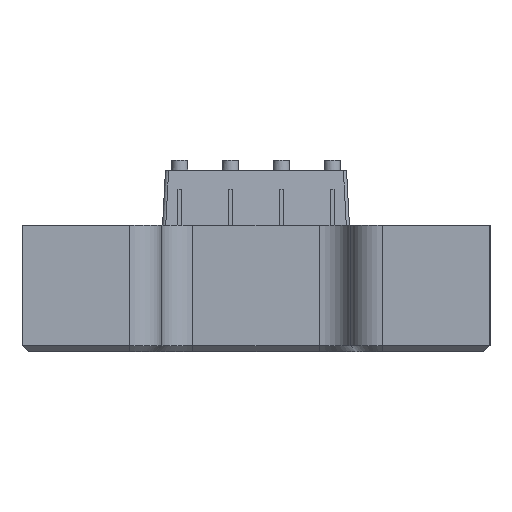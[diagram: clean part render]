
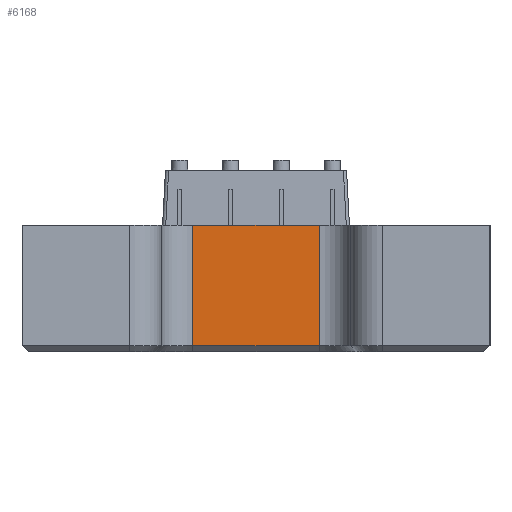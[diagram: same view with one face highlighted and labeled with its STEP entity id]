
A CAD part, left-side view. The second image highlights one B-rep face of the part: STEP entity #6168.
In plain terms, the highlighted planar face has unit normal (-1, 0, 0).
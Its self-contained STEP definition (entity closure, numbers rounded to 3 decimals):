
#6116=CARTESIAN_POINT('Vertex',(-42.,-10.,-19.)) ;
#6123=CARTESIAN_POINT('Vertex',(-42.,-10.,0.)) ;
#6126=CARTESIAN_POINT('Line Origine',(-42.,-10.,-10.)) ;
#6138=CARTESIAN_POINT('Axis2P3D Location',(-42.,15.,0.)) ;
#6143=CARTESIAN_POINT('Line Origine',(-42.,0.,-19.)) ;
#6147=CARTESIAN_POINT('Vertex',(-42.,10.,-19.)) ;
#6150=CARTESIAN_POINT('Line Origine',(-42.,0.,0.)) ;
#6154=CARTESIAN_POINT('Vertex',(-42.,10.,0.)) ;
#6157=CARTESIAN_POINT('Line Origine',(-42.,10.,-9.5)) ;
#6127=DIRECTION('Vector Direction',(0.,0.,-1.)) ;
#6139=DIRECTION('Axis2P3D Direction',(1.,0.,0.)) ;
#6140=DIRECTION('Axis2P3D XDirection',(0.,-1.,0.)) ;
#6144=DIRECTION('Vector Direction',(0.,-1.,0.)) ;
#6151=DIRECTION('Vector Direction',(0.,-1.,0.)) ;
#6158=DIRECTION('Vector Direction',(0.,0.,-1.)) ;
#6141=AXIS2_PLACEMENT_3D('Plane Axis2P3D',#6138,#6139,#6140) ;
#6163=ORIENTED_EDGE('',*,*,#6149,.F.) ;
#6164=ORIENTED_EDGE('',*,*,#6130,.T.) ;
#6165=ORIENTED_EDGE('',*,*,#6156,.T.) ;
#6166=ORIENTED_EDGE('',*,*,#6161,.F.) ;
#6128=VECTOR('Line Direction',#6127,1.) ;
#6145=VECTOR('Line Direction',#6144,1.) ;
#6152=VECTOR('Line Direction',#6151,1.) ;
#6159=VECTOR('Line Direction',#6158,1.) ;
#6168=ADVANCED_FACE('PartBody',(#6167),#6142,.F.) ;
#6130=EDGE_CURVE('',#6117,#6124,#6129,.F.) ;
#6149=EDGE_CURVE('',#6117,#6148,#6146,.F.) ;
#6156=EDGE_CURVE('',#6124,#6155,#6153,.F.) ;
#6161=EDGE_CURVE('',#6148,#6155,#6160,.F.) ;
#6162=EDGE_LOOP('',(#6163,#6164,#6165,#6166)) ;
#6167=FACE_OUTER_BOUND('',#6162,.T.) ;
#6129=LINE('Line',#6126,#6128) ;
#6146=LINE('Line',#6143,#6145) ;
#6153=LINE('Line',#6150,#6152) ;
#6160=LINE('Line',#6157,#6159) ;
#6142=PLANE('Plane',#6141) ;
#6117=VERTEX_POINT('',#6116) ;
#6124=VERTEX_POINT('',#6123) ;
#6148=VERTEX_POINT('',#6147) ;
#6155=VERTEX_POINT('',#6154) ;
